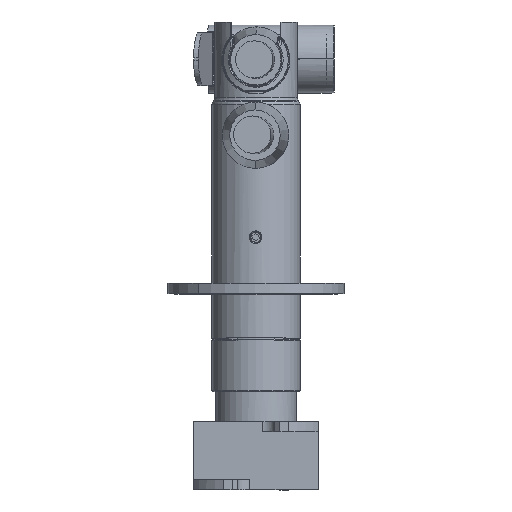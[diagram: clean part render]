
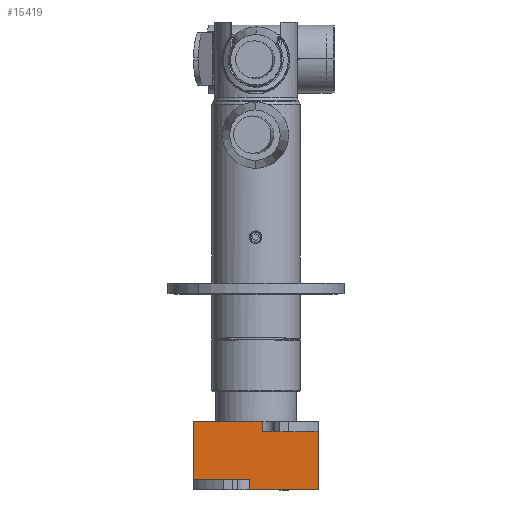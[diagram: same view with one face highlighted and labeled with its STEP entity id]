
A CAD part, top view. The second image highlights one B-rep face of the part: STEP entity #15419.
In plain terms, the highlighted planar face has unit normal (0, 0, 1).
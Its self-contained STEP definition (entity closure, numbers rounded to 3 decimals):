
#1535 = LINE ( 'NONE', #49261, #37169 ) ;
#1844 = EDGE_CURVE ( 'NONE', #57495, #44080, #11908, .T. ) ;
#3414 = CARTESIAN_POINT ( 'NONE',  ( 2.5, 23., 15. ) ) ;
#3684 = CARTESIAN_POINT ( 'NONE',  ( -2.5, 0., 15. ) ) ;
#3860 = EDGE_CURVE ( 'NONE', #16096, #47468, #1535, .T. ) ;
#4024 = VECTOR ( 'NONE', #20036, 1000. ) ;
#4616 = DIRECTION ( 'NONE',  ( 1., 0., 0. ) ) ;
#5098 = ORIENTED_EDGE ( 'NONE', *, *, #24996, .F. ) ;
#5121 = VERTEX_POINT ( 'NONE', #44581 ) ;
#6008 = CARTESIAN_POINT ( 'NONE',  ( -24.819, 27., 15. ) ) ;
#7299 = LINE ( 'NONE', #49194, #4024 ) ;
#7631 = VECTOR ( 'NONE', #56507, 1000. ) ;
#10457 = CARTESIAN_POINT ( 'NONE',  ( -5.568, 27., 15. ) ) ;
#11908 = LINE ( 'NONE', #34418, #16788 ) ;
#12104 = VECTOR ( 'NONE', #59532, 1000. ) ;
#12828 = DIRECTION ( 'NONE',  ( 0., -1., 0. ) ) ;
#13702 = AXIS2_PLACEMENT_3D ( 'NONE', #32646, #51432, #4616 ) ;
#13853 = PLANE ( 'NONE',  #13702 ) ;
#15419 = ADVANCED_FACE ( 'NONE', ( #41575 ), #13853, .T. ) ;
#15859 = ORIENTED_EDGE ( 'NONE', *, *, #52779, .T. ) ;
#15992 = ORIENTED_EDGE ( 'NONE', *, *, #52932, .T. ) ;
#16084 = EDGE_LOOP ( 'NONE', ( #32539, #20948, #15992, #45167, #49994, #59539, #30239, #5098, #15859 ) ) ;
#16096 = VERTEX_POINT ( 'NONE', #10457 ) ;
#16788 = VECTOR ( 'NONE', #52912, 1000. ) ;
#18786 = VECTOR ( 'NONE', #42253, 1000. ) ;
#19010 = CARTESIAN_POINT ( 'NONE',  ( -2.5, 4., 15. ) ) ;
#20036 = DIRECTION ( 'NONE',  ( -1., 0., 0. ) ) ;
#20322 = DIRECTION ( 'NONE',  ( -1., 0., 0. ) ) ;
#20948 = ORIENTED_EDGE ( 'NONE', *, *, #44306, .T. ) ;
#22056 = CARTESIAN_POINT ( 'NONE',  ( -2.5, 0., 15. ) ) ;
#23356 = EDGE_CURVE ( 'NONE', #57495, #43716, #31622, .T. ) ;
#24996 = EDGE_CURVE ( 'NONE', #33936, #43716, #28772, .T. ) ;
#27317 = LINE ( 'NONE', #50125, #33996 ) ;
#28073 = CARTESIAN_POINT ( 'NONE',  ( 24.819, 0., 15. ) ) ;
#28464 = CARTESIAN_POINT ( 'NONE',  ( 25., 0., 15. ) ) ;
#28772 = LINE ( 'NONE', #28464, #7631 ) ;
#30239 = ORIENTED_EDGE ( 'NONE', *, *, #23356, .T. ) ;
#30745 = CARTESIAN_POINT ( 'NONE',  ( 24.819, 0., 15. ) ) ;
#31622 = LINE ( 'NONE', #22056, #41769 ) ;
#32539 = ORIENTED_EDGE ( 'NONE', *, *, #42439, .F. ) ;
#32646 = CARTESIAN_POINT ( 'NONE',  ( 25., 27., 15. ) ) ;
#33542 = CARTESIAN_POINT ( 'NONE',  ( 2.5, 23., 15. ) ) ;
#33936 = VERTEX_POINT ( 'NONE', #30745 ) ;
#33996 = VECTOR ( 'NONE', #46120, 1000. ) ;
#34418 = CARTESIAN_POINT ( 'NONE',  ( -2.5, 4., 15. ) ) ;
#34632 = VERTEX_POINT ( 'NONE', #47124 ) ;
#35210 = CARTESIAN_POINT ( 'NONE',  ( -24.819, 0., 15. ) ) ;
#35526 = LINE ( 'NONE', #35210, #12104 ) ;
#37169 = VECTOR ( 'NONE', #20322, 1000. ) ;
#40518 = EDGE_CURVE ( 'NONE', #47468, #44080, #35526, .T. ) ;
#41575 = FACE_OUTER_BOUND ( 'NONE', #16084, .T. ) ;
#41769 = VECTOR ( 'NONE', #12828, 1000. ) ;
#42253 = DIRECTION ( 'NONE',  ( 0., 1., 0. ) ) ;
#42439 = EDGE_CURVE ( 'NONE', #44006, #5121, #54559, .T. ) ;
#43709 = VECTOR ( 'NONE', #45618, 1000. ) ;
#43716 = VERTEX_POINT ( 'NONE', #3684 ) ;
#44006 = VERTEX_POINT ( 'NONE', #33542 ) ;
#44080 = VERTEX_POINT ( 'NONE', #48604 ) ;
#44306 = EDGE_CURVE ( 'NONE', #44006, #34632, #27317, .T. ) ;
#44581 = CARTESIAN_POINT ( 'NONE',  ( 24.819, 23., 15. ) ) ;
#45167 = ORIENTED_EDGE ( 'NONE', *, *, #3860, .T. ) ;
#45618 = DIRECTION ( 'NONE',  ( 1., 0., 0. ) ) ;
#46120 = DIRECTION ( 'NONE',  ( 0., 1., 0. ) ) ;
#47124 = CARTESIAN_POINT ( 'NONE',  ( 2.5, 27., 15. ) ) ;
#47468 = VERTEX_POINT ( 'NONE', #6008 ) ;
#48604 = CARTESIAN_POINT ( 'NONE',  ( -24.819, 4., 15. ) ) ;
#49194 = CARTESIAN_POINT ( 'NONE',  ( 25., 27., 15. ) ) ;
#49261 = CARTESIAN_POINT ( 'NONE',  ( 25., 27., 15. ) ) ;
#49994 = ORIENTED_EDGE ( 'NONE', *, *, #40518, .T. ) ;
#50125 = CARTESIAN_POINT ( 'NONE',  ( 2.5, 27., 15. ) ) ;
#51432 = DIRECTION ( 'NONE',  ( 0., 0., 1. ) ) ;
#52779 = EDGE_CURVE ( 'NONE', #33936, #5121, #60428, .T. ) ;
#52912 = DIRECTION ( 'NONE',  ( -1., 0., 0. ) ) ;
#52932 = EDGE_CURVE ( 'NONE', #34632, #16096, #7299, .T. ) ;
#54559 = LINE ( 'NONE', #3414, #43709 ) ;
#56507 = DIRECTION ( 'NONE',  ( -1., 0., 0. ) ) ;
#57495 = VERTEX_POINT ( 'NONE', #19010 ) ;
#59532 = DIRECTION ( 'NONE',  ( 0., -1., 0. ) ) ;
#59539 = ORIENTED_EDGE ( 'NONE', *, *, #1844, .F. ) ;
#60428 = LINE ( 'NONE', #28073, #18786 ) ;
